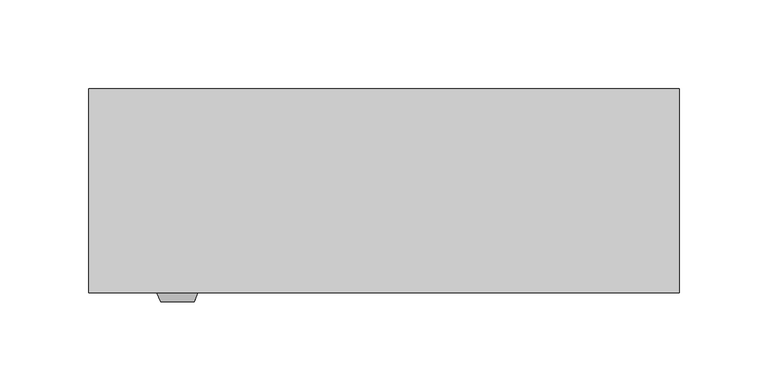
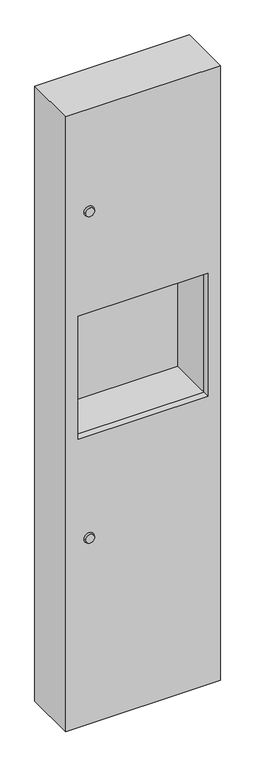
"""IFC4 building model written with IfcOpenShell, lengths in millimetres: proxy geometry, Paper Dispenser and Waste_Metlam_Surface Mounted_19L Waste : 333w x 115d x 1397h (ML706SM_MK2)."""

from ifc_helpers import new_model, si_unit, frame, origin, place, context, project, spatial, polyline, circle_curve, outline, extrude, faceted_brep, source, transform, mapped, element, save
from ifc_brep_helpers import plane_surface, revolved_surface, advanced_brep


def specialty_equipment_3c9b6b59(model_context):
    return source(origin(), model_context, "Body", "SolidModel", [
        faceted_brep([(166.5, -115.0, 400.0), (166.5, -115.0, 1797.0), (-166.5, -115.0, 1797.0), (-166.5, -115.0, 400.0), (140.0, -115.0, 1335.0), (140.0, -115.0, 1055.0), (-140.0, -115.0, 1055.0), (-140.0, -115.0, 1335.0), (164.9, -100.0, 401.6), (-164.9, -100.0, 401.6), (-164.9, -100.0, 1795.4), (164.9, -100.0, 1795.4), (140.0, -100.0, 1335.0), (-140.0, -100.0, 1335.0), (-140.0, -100.0, 1055.0), (140.0, -100.0, 1055.0), (-166.5, 0.0, 1797.0), (-166.5, 0.0, 400.0), (166.5, 0.0, 400.0), (166.5, 0.0, 1797.0), (164.9, 0.0, 401.6), (164.9, 0.0, 1795.4), (-164.9, 0.0, 1795.4), (-164.9, 0.0, 401.6)], [[[0, 1, 2, 3], [4, 5, 6, 7]], [[8, 9, 10, 11], [12, 13, 14, 15]], [[3, 2, 16, 17]], [[0, 3, 17, 18]], [[1, 0, 18, 19]], [[16, 2, 1, 19]], [[5, 4, 12, 15]], [[6, 5, 15, 14]], [[7, 6, 14, 13]], [[4, 7, 13, 12]], [[18, 17, 16, 19], [20, 21, 22, 23]], [[20, 23, 9, 8]], [[23, 22, 10, 9]], [[22, 21, 11, 10]], [[21, 20, 8, 11]]]),
        extrude(outline(polyline([(1336.6, 141.6), (1336.6, -141.6), (1053.4, -141.6), (1053.4, 141.6), (1336.6, 141.6)]), holes=[polyline([(1335.0, 140.0), (1055.0, 140.0), (1055.0, -140.0), (1335.0, -140.0), (1335.0, 140.0)])]), frame((0.0, -100.0, 0.0), z_axis=(0.0, 1.0, 0.0), x_axis=(0.0, 0.0, 1.0)), (0.0, 0.0, 1.0), 98.0),
        extrude(outline(polyline([(1335.0, 120.0), (1335.0, -120.0), (1315.0, -120.0), (1315.0, -10.0), (1325.0, -10.0), (1325.0, 10.0), (1315.0, 10.0), (1315.0, 120.0), (1335.0, 120.0)])), frame((0.0, -85.0, 0.0), z_axis=(0.0, 1.0, 0.0), x_axis=(0.0, 0.0, 1.0)), (0.0, 0.0, 1.0), 10.0),
        faceted_brep([(-146.0, -100.0, 1774.5), (-146.0, -100.0, 422.5), (146.0, -100.0, 422.5), (146.0, -100.0, 1774.5), (-144.0, -100.0, 1772.5), (144.0, -100.0, 1772.5), (144.0, -100.0, 424.5), (-144.0, -100.0, 424.5), (-146.0, 0.0, 1774.5), (146.0, 0.0, 1774.5), (146.0, 0.0, 422.5), (-146.0, 0.0, 422.5), (-146.0, -2.0, 1774.5), (-146.0, -2.0, 422.5), (146.0, -2.0, 422.5), (146.0, -2.0, 1774.5), (-144.0, -2.0, 1772.5), (144.0, -2.0, 1772.5), (144.0, -2.0, 424.5), (-144.0, -2.0, 424.5)], [[[0, 1, 2, 3], [4, 5, 6, 7]], [[8, 9, 10, 11]], [[1, 0, 12, 8, 11, 13]], [[2, 1, 13, 11, 10, 14]], [[3, 2, 14, 10, 9, 15]], [[0, 3, 15, 9, 8, 12]], [[5, 4, 16, 17]], [[6, 5, 17, 18]], [[7, 6, 18, 19]], [[4, 7, 19, 16]], [[17, 16, 19, 18]]]),
        advanced_brep(
        [(-126.0, -120.0, 824.0), (-107.0, -120.0, 824.0), (-128.0, -115.0, 824.0), (-105.0, -115.0, 824.0)],
        [
            (0, 1, circle_curve(frame((-116.5, -120.0, 824.0), z_axis=(0.0, -1.0, 8.798295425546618e-12), x_axis=(-1.0, 0.0, 0.0)), 9.5)),
            (1, 0, circle_curve(frame((-116.5, -120.0, 824.0), z_axis=(0.0, -1.0, 8.798295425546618e-12), x_axis=(1.0, 0.0, 0.0)), 9.5)),
            (2, 3, circle_curve(frame((-116.5, -115.0, 824.0), z_axis=(0.0, 1.0, -8.798295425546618e-12), x_axis=(1.0, 0.0, 0.0)), 11.5)),
            (3, 2, circle_curve(frame((-116.5, -115.0, 824.0), z_axis=(0.0, 1.0, -8.798295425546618e-12), x_axis=(-1.0, 0.0, 0.0)), 11.5)),
            (3, 1),
            (0, 2),
        ],
        [
            plane_surface(frame((-116.5, -120.0, 824.0), z_axis=(0.0, -1.0, 0.0), x_axis=(0.0, 0.0, -1.0))),
            plane_surface(frame((-116.5, -115.0, 824.0), z_axis=(0.0, 1.0, 0.0), x_axis=(0.0, 0.0, -1.0))),
            revolved_surface(polyline([(-126.0, -120.0, 824.0), (-128.0, -115.0, 824.0)]), (-116.5, -143.75, 824.0), (0.0, 1.0, -8.798295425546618e-12)),
            revolved_surface(polyline([(-107.0, -120.0, 824.0), (-105.0, -115.0, 824.0)]), (-116.5, -143.75, 824.0), (0.0, 1.0, -8.798295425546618e-12)),
        ],
        [
            (0, [[1, 2]]),
            (1, [[3, 4]]),
            (2, [[-4, 5, -1, 6]]),
            (3, [[-3, -6, -2, -5]]),
        ],
    ),
        advanced_brep(
        [(-126.0, -120.0, 1566.0), (-107.0, -120.0, 1566.0), (-128.0, -115.0, 1566.0), (-105.0, -115.0, 1566.0)],
        [
            (0, 1, circle_curve(frame((-116.5, -120.0, 1566.0), z_axis=(0.0, -1.0, -9.204370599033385e-12), x_axis=(-1.0, 0.0, 0.0)), 9.5)),
            (1, 0, circle_curve(frame((-116.5, -120.0, 1566.0), z_axis=(0.0, -1.0, -9.204370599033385e-12), x_axis=(1.0, 0.0, 0.0)), 9.5)),
            (2, 3, circle_curve(frame((-116.5, -115.0, 1566.0), z_axis=(0.0, 1.0, 9.204370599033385e-12), x_axis=(1.0, 0.0, 0.0)), 11.5)),
            (3, 2, circle_curve(frame((-116.5, -115.0, 1566.0), z_axis=(0.0, 1.0, 9.204370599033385e-12), x_axis=(-1.0, 0.0, 0.0)), 11.5)),
            (3, 1),
            (0, 2),
        ],
        [
            plane_surface(frame((-116.5, -120.0, 1566.0), z_axis=(0.0, -1.0, 0.0), x_axis=(0.0, 0.0, -1.0))),
            plane_surface(frame((-116.5, -115.0, 1566.0), z_axis=(0.0, 1.0, 0.0), x_axis=(0.0, 0.0, -1.0))),
            revolved_surface(polyline([(-126.0, -120.0, 1566.0), (-128.0, -115.0, 1566.0)]), (-116.5, -143.75, 1566.0), (0.0, 1.0, 9.204370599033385e-12)),
            revolved_surface(polyline([(-107.0, -120.0, 1566.0), (-105.0, -115.0, 1566.0)]), (-116.5, -143.75, 1566.0), (0.0, 1.0, 9.204370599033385e-12)),
        ],
        [
            (0, [[1, 2]]),
            (1, [[3, 4]]),
            (2, [[-4, 5, -1, 6]]),
            (3, [[-3, -6, -2, -5]]),
        ],
    ),
    ])


if __name__ == "__main__":
    model = new_model("IFC4")
    model_context = context("Model", 3, world=origin())
    ifc_project = project(units=[si_unit("LENGTHUNIT", "METRE", prefix="MILLI")], contexts=[model_context])
    site = spatial("IfcSite", under=ifc_project)
    building = spatial("IfcBuilding", under=site)
    placement = place(None, origin())
    specialty_equipment_shape = specialty_equipment_3c9b6b59(model_context)
    element("IfcBuildingElementProxy", 1, Name="Paper Dispenser and Waste_Metlam_Surface Mounted_19L Waste : 333w x 115d x 1397h (ML706SM_MK2)", ObjectType="Paper Dispenser and Waste_Metlam_Surface Mounted_19L Waste : 333w x 115d x 1397h (ML706SM_MK2)", at=placement, inside=building, context=model_context, shape_type="MappedRepresentation", body=[
        mapped(specialty_equipment_shape, transform((0.0, 0.0, 0.0), x_axis=(1.0, 0.0, 0.0), y_axis=(0.0, 1.0, 0.0), z_axis=(0.0, 0.0, 1.0))),
    ])
    save(model, "model.ifc")
